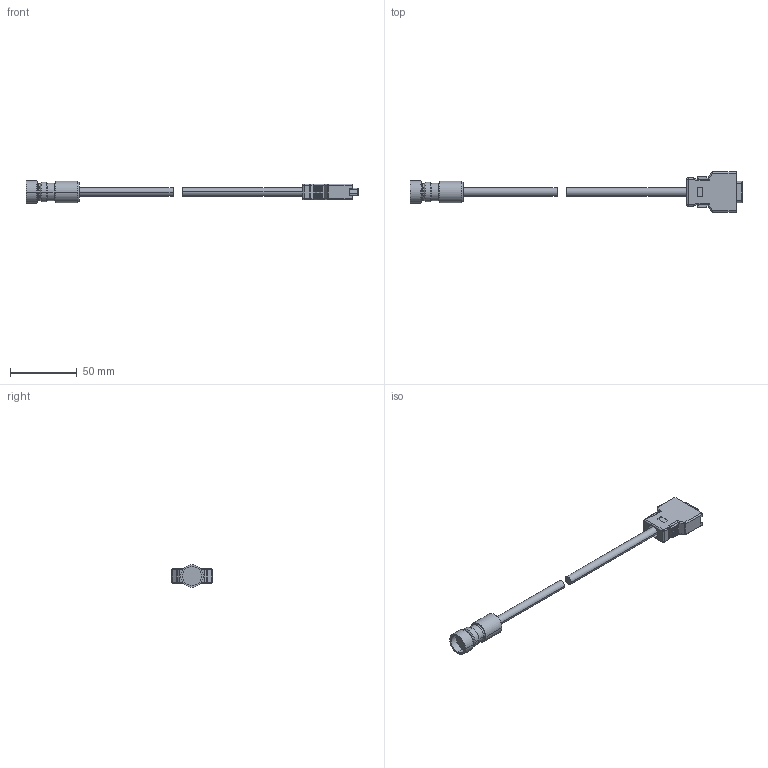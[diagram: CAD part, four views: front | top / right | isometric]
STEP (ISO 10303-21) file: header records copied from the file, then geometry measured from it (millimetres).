
FILE_DESCRIPTION(('Creo Elements/Direct Modeling STEP Export'),'2;1');
FILE_NAME('06AHP055_SIGNALCABLE_FANUC.stp','2025-12-16T12:01:17',(''),(''),'Creo Elements/Direct Modeling STEP processor for AP214 (Solid Model)','Creo Elements/Direct Modeling 18.1I 13-Aug-2016 (C) Parametric Technology GmbH','');
FILE_SCHEMA(('AUTOMOTIVE_DESIGN { 1 0 10303 214 1 1 1 1 }'));
Length unit declared in the file: millimetre
Products named in the file (3): CONNECTOR_FANUC; CONNECTOR_OR700; 06AHP055_SIGNALCABLE_FANUC
Assembly tree (2 placements, depth 2):
  06AHP055_SIGNALCABLE_FANUC
    CONNECTOR_OR700
    CONNECTOR_FANUC
Bounding box: 248.4 x 30 x 17 mm (x, y, z)
Volume: 22344.3 mm3; surface area: 10463.8 mm2
Topology: 2 solids, 2 shells, 286 faces, 734 edges, 445 vertices
Faces by surface type: plane 152, cylinder 100, cone 14, sphere 12, torus 8
Entity records: 8544 total; most frequent: CARTESIAN_POINT 1618, ORIENTED_EDGE 1444, DIRECTION 1418, EDGE_CURVE 722, VECTOR 494, LINE 494, AXIS2_PLACEMENT_3D 462, VERTEX_POINT 445
